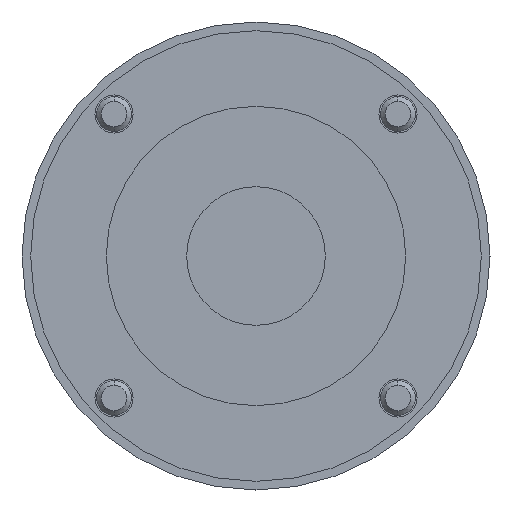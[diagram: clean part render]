
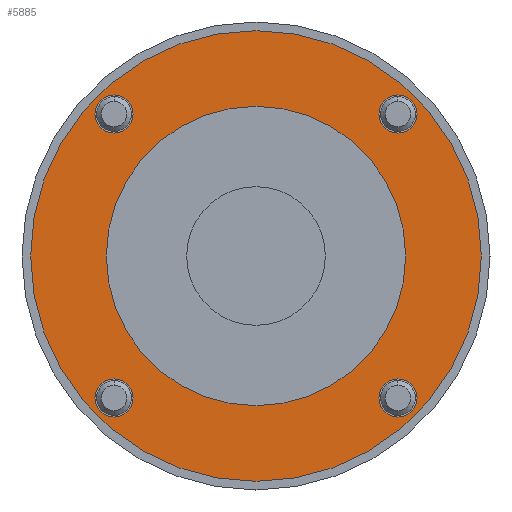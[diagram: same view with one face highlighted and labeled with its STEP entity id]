
A CAD part, left-side view. The second image highlights one B-rep face of the part: STEP entity #5885.
In plain terms, the highlighted planar face has unit normal (-1, 0, 0).
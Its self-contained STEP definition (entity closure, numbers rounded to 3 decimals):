
#49 = EDGE_LOOP ( 'NONE', ( #5870, #5884 ) ) ;
#52 = EDGE_LOOP ( 'NONE', ( #3579, #471 ) ) ;
#126 = EDGE_LOOP ( 'NONE', ( #470, #476 ) ) ;
#257 = EDGE_CURVE ( 'NONE', #268, #269, #2151, .T. ) ;
#268 = VERTEX_POINT ( 'NONE', #2176 ) ;
#269 = VERTEX_POINT ( 'NONE', #2145 ) ;
#346 = EDGE_CURVE ( 'NONE', #371, #372, #2387, .T. ) ;
#371 = VERTEX_POINT ( 'NONE', #2436 ) ;
#372 = VERTEX_POINT ( 'NONE', #2435 ) ;
#470 = ORIENTED_EDGE ( 'NONE', *, *, #473, .F. ) ;
#471 = ORIENTED_EDGE ( 'NONE', *, *, #1446, .T. ) ;
#473 = EDGE_CURVE ( 'NONE', #1433, #1440, #2718, .T. ) ;
#476 = ORIENTED_EDGE ( 'NONE', *, *, #1452, .F. ) ;
#1264 = VERTEX_POINT ( 'NONE', #5062 ) ;
#1266 = VERTEX_POINT ( 'NONE', #5051 ) ;
#1275 = EDGE_CURVE ( 'NONE', #1282, #1280, #5092, .T. ) ;
#1280 = VERTEX_POINT ( 'NONE', #5098 ) ;
#1282 = VERTEX_POINT ( 'NONE', #5068 ) ;
#1344 = EDGE_CURVE ( 'NONE', #1266, #1264, #5236, .T. ) ;
#1433 = VERTEX_POINT ( 'NONE', #5440 ) ;
#1440 = VERTEX_POINT ( 'NONE', #5485 ) ;
#1443 = VERTEX_POINT ( 'NONE', #5432 ) ;
#1446 = EDGE_CURVE ( 'NONE', #1463, #1443, #5474, .T. ) ;
#1452 = EDGE_CURVE ( 'NONE', #1440, #1433, #5483, .T. ) ;
#1463 = VERTEX_POINT ( 'NONE', #5457 ) ;
#2145 = CARTESIAN_POINT ( 'NONE',  ( 3.5, 24.572, -27.872 ) ) ;
#2151 = CIRCLE ( 'NONE', #2185, 3.3 ) ;
#2176 = CARTESIAN_POINT ( 'NONE',  ( 3.5, 24.572, -21.272 ) ) ;
#2179 = DIRECTION ( 'NONE',  ( 0., 0., -1. ) ) ;
#2180 = DIRECTION ( 'NONE',  ( 1., 0., 0. ) ) ;
#2181 = CARTESIAN_POINT ( 'NONE',  ( 3.5, 24.572, -24.572 ) ) ;
#2185 = AXIS2_PLACEMENT_3D ( 'NONE', #2181, #2180, #2179 ) ;
#2381 = DIRECTION ( 'NONE',  ( 0., 0., -1. ) ) ;
#2382 = AXIS2_PLACEMENT_3D ( 'NONE', #2394, #2399, #2381 ) ;
#2387 = CIRCLE ( 'NONE', #2382, 3.3 ) ;
#2394 = CARTESIAN_POINT ( 'NONE',  ( 3.5, 24.572, 24.572 ) ) ;
#2399 = DIRECTION ( 'NONE',  ( 1., 0., 0. ) ) ;
#2435 = CARTESIAN_POINT ( 'NONE',  ( 3.5, 24.572, 21.272 ) ) ;
#2436 = CARTESIAN_POINT ( 'NONE',  ( 3.5, 24.572, 27.872 ) ) ;
#2713 = DIRECTION ( 'NONE',  ( 0., 0., 1. ) ) ;
#2714 = DIRECTION ( 'NONE',  ( -1., 0., 0. ) ) ;
#2715 = AXIS2_PLACEMENT_3D ( 'NONE', #2717, #2714, #2713 ) ;
#2717 = CARTESIAN_POINT ( 'NONE',  ( 3.5, 0., 0. ) ) ;
#2718 = CIRCLE ( 'NONE', #2715, 25.9 ) ;
#3579 = ORIENTED_EDGE ( 'NONE', *, *, #5886, .T. ) ;
#5051 = CARTESIAN_POINT ( 'NONE',  ( 3.5, -24.572, -21.272 ) ) ;
#5062 = CARTESIAN_POINT ( 'NONE',  ( 3.5, -24.572, -27.872 ) ) ;
#5068 = CARTESIAN_POINT ( 'NONE',  ( 3.5, -24.572, 27.872 ) ) ;
#5078 = DIRECTION ( 'NONE',  ( 0., 0., -1. ) ) ;
#5079 = DIRECTION ( 'NONE',  ( 1., 0., 0. ) ) ;
#5086 = CARTESIAN_POINT ( 'NONE',  ( 3.5, -24.572, 24.572 ) ) ;
#5092 = CIRCLE ( 'NONE', #5097, 3.3 ) ;
#5097 = AXIS2_PLACEMENT_3D ( 'NONE', #5086, #5079, #5078 ) ;
#5098 = CARTESIAN_POINT ( 'NONE',  ( 3.5, -24.572, 21.272 ) ) ;
#5226 = DIRECTION ( 'NONE',  ( 0., 0., -1. ) ) ;
#5227 = DIRECTION ( 'NONE',  ( 1., 0., 0. ) ) ;
#5228 = CARTESIAN_POINT ( 'NONE',  ( 3.5, -24.572, -24.572 ) ) ;
#5229 = AXIS2_PLACEMENT_3D ( 'NONE', #5228, #5227, #5226 ) ;
#5236 = CIRCLE ( 'NONE', #5229, 3.3 ) ;
#5432 = CARTESIAN_POINT ( 'NONE',  ( 3.5, 0., 39. ) ) ;
#5440 = CARTESIAN_POINT ( 'NONE',  ( 3.5, 0., 25.9 ) ) ;
#5455 = DIRECTION ( 'NONE',  ( -1., 0., 0. ) ) ;
#5457 = CARTESIAN_POINT ( 'NONE',  ( 3.5, 0., -39. ) ) ;
#5460 = CARTESIAN_POINT ( 'NONE',  ( 3.5, 0., 0. ) ) ;
#5461 = DIRECTION ( 'NONE',  ( 0., 0., 1. ) ) ;
#5463 = AXIS2_PLACEMENT_3D ( 'NONE', #5460, #5455, #5461 ) ;
#5468 = DIRECTION ( 'NONE',  ( 0., 0., 1. ) ) ;
#5469 = DIRECTION ( 'NONE',  ( -1., 0., 0. ) ) ;
#5470 = CARTESIAN_POINT ( 'NONE',  ( 3.5, 0., 0. ) ) ;
#5471 = AXIS2_PLACEMENT_3D ( 'NONE', #5470, #5469, #5468 ) ;
#5474 = CIRCLE ( 'NONE', #5471, 39. ) ;
#5483 = CIRCLE ( 'NONE', #5463, 25.9 ) ;
#5485 = CARTESIAN_POINT ( 'NONE',  ( 3.5, 0., -25.9 ) ) ;
#5649 = DIRECTION ( 'NONE',  ( 1., 0., 0. ) ) ;
#5664 = PLANE ( 'NONE',  #5684 ) ;
#5665 = CARTESIAN_POINT ( 'NONE',  ( 3.5, 0., 0. ) ) ;
#5672 = FACE_OUTER_BOUND ( 'NONE', #52, .T. ) ;
#5674 = FACE_BOUND ( 'NONE', #126, .T. ) ;
#5675 = FACE_BOUND ( 'NONE', #5907, .T. ) ;
#5676 = FACE_BOUND ( 'NONE', #49, .T. ) ;
#5677 = DIRECTION ( 'NONE',  ( -1., 0., 0. ) ) ;
#5682 = DIRECTION ( 'NONE',  ( 0., 0., -1. ) ) ;
#5683 = AXIS2_PLACEMENT_3D ( 'NONE', #5698, #5649, #5682 ) ;
#5684 = AXIS2_PLACEMENT_3D ( 'NONE', #5727, #5726, #5725 ) ;
#5686 = FACE_BOUND ( 'NONE', #5878, .T. ) ;
#5688 = FACE_BOUND ( 'NONE', #5883, .T. ) ;
#5692 = CIRCLE ( 'NONE', #5683, 3.3 ) ;
#5698 = CARTESIAN_POINT ( 'NONE',  ( 3.5, 24.572, -24.572 ) ) ;
#5720 = DIRECTION ( 'NONE',  ( 0., 0., 1. ) ) ;
#5721 = AXIS2_PLACEMENT_3D ( 'NONE', #5665, #5677, #5720 ) ;
#5722 = CIRCLE ( 'NONE', #5721, 39. ) ;
#5723 = CIRCLE ( 'NONE', #5737, 3.3 ) ;
#5725 = DIRECTION ( 'NONE',  ( 0., 0., -1. ) ) ;
#5726 = DIRECTION ( 'NONE',  ( 1., 0., 0. ) ) ;
#5727 = CARTESIAN_POINT ( 'NONE',  ( 3.5, 39., 0. ) ) ;
#5732 = CIRCLE ( 'NONE', #5787, 3.3 ) ;
#5735 = DIRECTION ( 'NONE',  ( 0., 0., -1. ) ) ;
#5736 = DIRECTION ( 'NONE',  ( 1., 0., 0. ) ) ;
#5737 = AXIS2_PLACEMENT_3D ( 'NONE', #5751, #5736, #5735 ) ;
#5740 = CARTESIAN_POINT ( 'NONE',  ( 3.5, 24.572, 24.572 ) ) ;
#5742 = DIRECTION ( 'NONE',  ( 0., 0., -1. ) ) ;
#5743 = DIRECTION ( 'NONE',  ( 1., 0., 0. ) ) ;
#5744 = AXIS2_PLACEMENT_3D ( 'NONE', #5750, #5743, #5742 ) ;
#5750 = CARTESIAN_POINT ( 'NONE',  ( 3.5, -24.572, 24.572 ) ) ;
#5751 = CARTESIAN_POINT ( 'NONE',  ( 3.5, -24.572, -24.572 ) ) ;
#5754 = CIRCLE ( 'NONE', #5744, 3.3 ) ;
#5785 = DIRECTION ( 'NONE',  ( 0., 0., -1. ) ) ;
#5786 = DIRECTION ( 'NONE',  ( 1., 0., 0. ) ) ;
#5787 = AXIS2_PLACEMENT_3D ( 'NONE', #5740, #5786, #5785 ) ;
#5870 = ORIENTED_EDGE ( 'NONE', *, *, #5880, .T. ) ;
#5875 = ORIENTED_EDGE ( 'NONE', *, *, #5905, .T. ) ;
#5878 = EDGE_LOOP ( 'NONE', ( #5875, #5900 ) ) ;
#5880 = EDGE_CURVE ( 'NONE', #269, #268, #5692, .T. ) ;
#5883 = EDGE_LOOP ( 'NONE', ( #5887, #5899 ) ) ;
#5884 = ORIENTED_EDGE ( 'NONE', *, *, #257, .T. ) ;
#5885 = ADVANCED_FACE ( 'NONE', ( #5676, #5686, #5688, #5675, #5674, #5672 ), #5664, .F. ) ;
#5886 = EDGE_CURVE ( 'NONE', #1443, #1463, #5722, .T. ) ;
#5887 = ORIENTED_EDGE ( 'NONE', *, *, #5901, .T. ) ;
#5899 = ORIENTED_EDGE ( 'NONE', *, *, #1275, .T. ) ;
#5900 = ORIENTED_EDGE ( 'NONE', *, *, #1344, .T. ) ;
#5901 = EDGE_CURVE ( 'NONE', #1280, #1282, #5754, .T. ) ;
#5905 = EDGE_CURVE ( 'NONE', #1264, #1266, #5723, .T. ) ;
#5907 = EDGE_LOOP ( 'NONE', ( #5908, #5909 ) ) ;
#5908 = ORIENTED_EDGE ( 'NONE', *, *, #5910, .T. ) ;
#5909 = ORIENTED_EDGE ( 'NONE', *, *, #346, .T. ) ;
#5910 = EDGE_CURVE ( 'NONE', #372, #371, #5732, .T. ) ;
